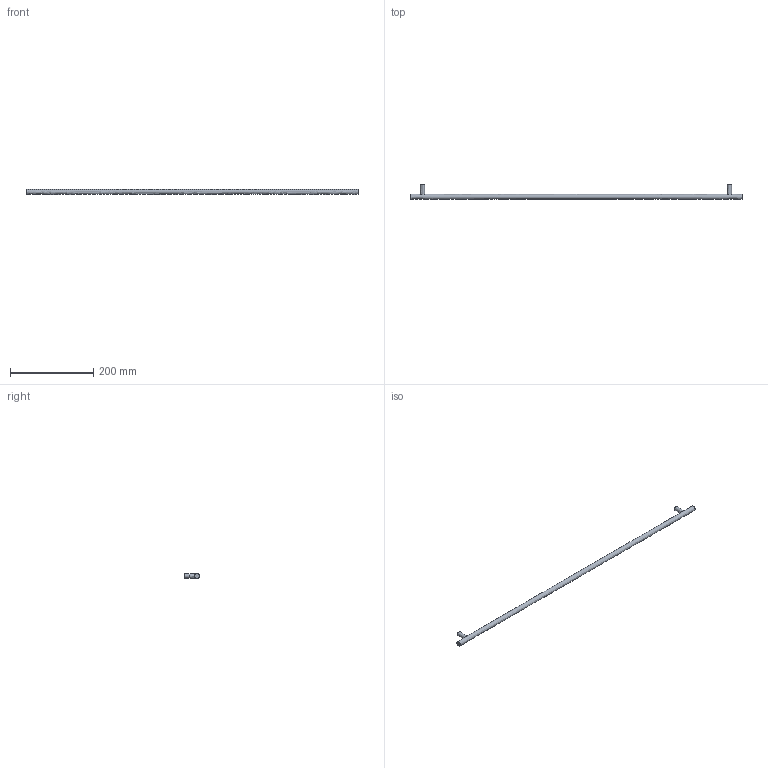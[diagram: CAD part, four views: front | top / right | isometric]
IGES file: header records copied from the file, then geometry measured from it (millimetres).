
Start section: Data from Parasolid IGES Translator 15.0.47, Copyright(c) 2006 Siemens P LM Software. All Rights Reserved.
Global section: file name: 9071038.igs; native system:  By UGS Corp.; preprocessor: XPlus GENERIC/IGES 3.0; author: Noname; organization: Noname; date: 20140122.181341; units: millimetre
Bounding box: 796 x 35 x 12 mm (x, y, z)
Surface area: 32040 mm2 (no closed solid volume)
Topology: 0 solids, 0 shells, 11 faces, 30 edges, 22 vertices
Faces by surface type: extrusion 6, revolution 5
